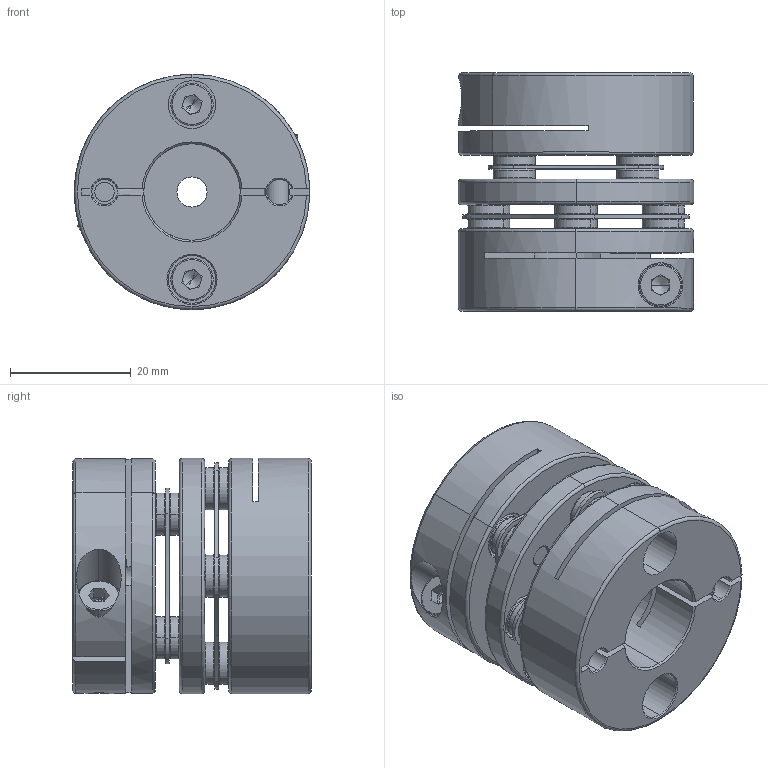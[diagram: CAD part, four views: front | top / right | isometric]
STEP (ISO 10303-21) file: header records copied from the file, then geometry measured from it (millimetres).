
FILE_DESCRIPTION (( 'STEP AP203' ), '1' );
FILE_NAME ('SDWA-39C-5X16_203.STEP', '2013-01-09T08:21:46', ( 'MYCOM' ), ( '' ), 'SwSTEP 2.0', 'SolidWorks 2012', '' );
FILE_SCHEMA (( 'CONFIG_CONTROL_DESIGN' ));
Length unit declared in the file: millimetre
Products named in the file (1): SDWA-39C-5X16_203
Bounding box: 39 x 39.5 x 39 mm (x, y, z)
Volume: 30588.8 mm3; surface area: 19971.8 mm2
Topology: 1 solids, 33 shells, 784 faces, 1802 edges, 1068 vertices
Faces by surface type: cylinder 258, plane 226, cone 162, torus 138
Entity records: 22685 total; most frequent: DIRECTION 4273, CARTESIAN_POINT 4204, ORIENTED_EDGE 3564, EDGE_CURVE 1782, AXIS2_PLACEMENT_3D 1761, VERTEX_POINT 1068, CIRCLE 976, EDGE_LOOP 894
